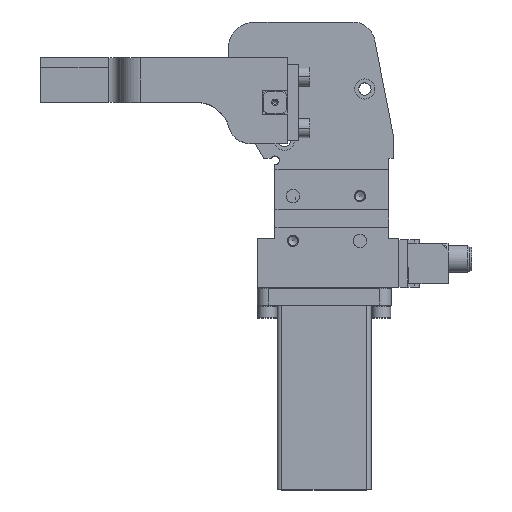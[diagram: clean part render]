
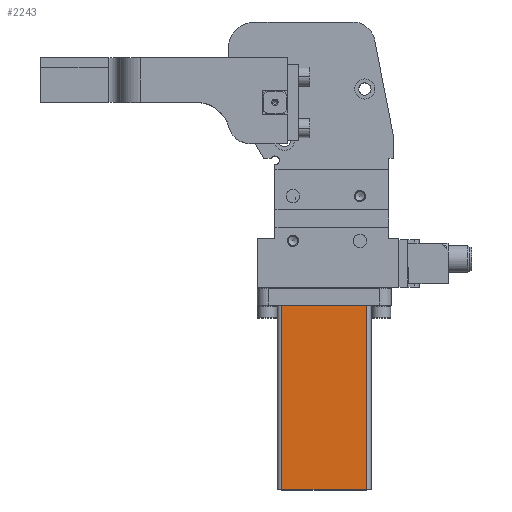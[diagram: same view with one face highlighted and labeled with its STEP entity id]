
A CAD part, top view. The second image highlights one B-rep face of the part: STEP entity #2243.
In plain terms, the highlighted planar face has unit normal (0, 0, 1).
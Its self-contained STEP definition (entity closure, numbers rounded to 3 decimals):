
#2243=ADVANCED_FACE('',(#3178),#2718,.T.);
#2718=PLANE('',#13989);
#3178=FACE_OUTER_BOUND('',#4080,.T.);
#4080=EDGE_LOOP('',(#7470,#7471,#7472,#7473));
#7470=ORIENTED_EDGE('',*,*,#10660,.F.);
#7471=ORIENTED_EDGE('',*,*,#10658,.F.);
#7472=ORIENTED_EDGE('',*,*,#10655,.F.);
#7473=ORIENTED_EDGE('',*,*,#10645,.F.);
#9140=VERTEX_POINT('',#20822);
#9141=VERTEX_POINT('',#20824);
#9148=VERTEX_POINT('',#20844);
#9149=VERTEX_POINT('',#20848);
#10645=EDGE_CURVE('',#9140,#9141,#11733,.T.);
#10655=EDGE_CURVE('',#9141,#9148,#11740,.T.);
#10658=EDGE_CURVE('',#9148,#9149,#11741,.T.);
#10660=EDGE_CURVE('',#9149,#9140,#11743,.T.);
#11733=LINE('',#20823,#12672);
#11740=LINE('',#20843,#12679);
#11741=LINE('',#20849,#12680);
#11743=LINE('',#20853,#12682);
#12672=VECTOR('',#17141,1.);
#12679=VECTOR('',#17160,1.);
#12680=VECTOR('',#17167,1.);
#12682=VECTOR('',#17173,1.);
#13989=AXIS2_PLACEMENT_3D('',#20854,#17174,#17175);
#17141=DIRECTION('',(0.,-1.,0.));
#17160=DIRECTION('',(-1.,0.,0.));
#17167=DIRECTION('',(0.,1.,0.));
#17173=DIRECTION('',(1.,0.,0.));
#17174=DIRECTION('',(0.,0.,1.));
#17175=DIRECTION('',(-1.,0.,0.));
#20822=CARTESIAN_POINT('',(41.,-91.,21.));
#20823=CARTESIAN_POINT('',(41.,-91.,21.));
#20824=CARTESIAN_POINT('',(41.,-173.5,21.));
#20843=CARTESIAN_POINT('',(41.,-173.5,21.));
#20844=CARTESIAN_POINT('',(3.,-173.5,21.));
#20848=CARTESIAN_POINT('',(3.,-91.,21.));
#20849=CARTESIAN_POINT('',(3.,-173.5,21.));
#20853=CARTESIAN_POINT('',(-3.,-91.,21.));
#20854=CARTESIAN_POINT('',(-3.,-91.,21.));
